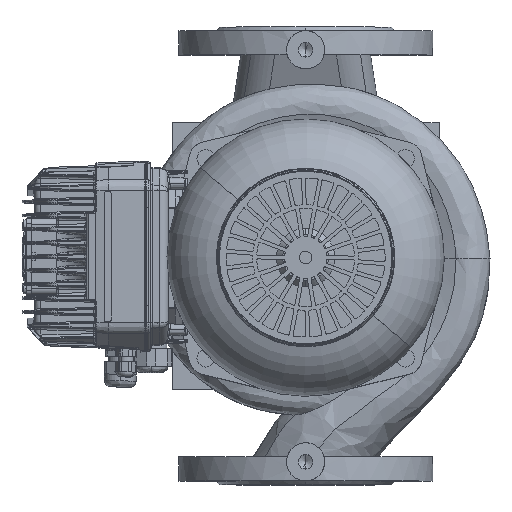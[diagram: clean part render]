
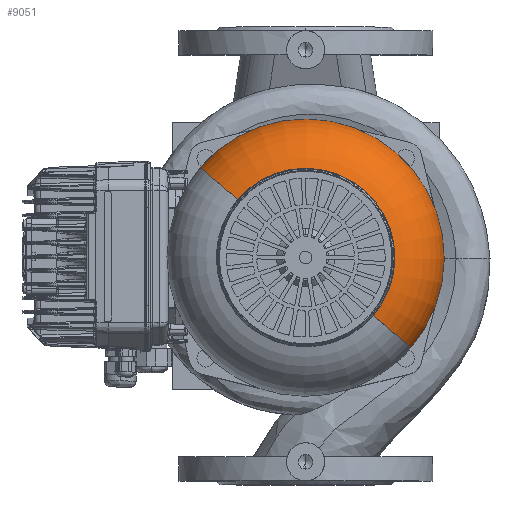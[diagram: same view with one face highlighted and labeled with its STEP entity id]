
A CAD part, top view. The second image highlights one B-rep face of the part: STEP entity #9051.
In plain terms, the highlighted toroidal (fillet/blend) face has major radius 59 mm and minor radius 50 mm.
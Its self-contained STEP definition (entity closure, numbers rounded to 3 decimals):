
#9051=ADVANCED_FACE('NONE',(#21703),#21704,.T.);
#21703=FACE_OUTER_BOUND('',#42049,.T.);
#21704=TOROIDAL_SURFACE('',#42050,59.,50.);
#42049=EDGE_LOOP('',(#115650,#115651,#115652,#115653));
#42050=AXIS2_PLACEMENT_3D('',#115654,#115655,#115656);
#115650=ORIENTED_EDGE('',*,*,#153961,.T.);
#115651=ORIENTED_EDGE('',*,*,#154259,.T.);
#115652=ORIENTED_EDGE('',*,*,#153962,.T.);
#115653=ORIENTED_EDGE('',*,*,#154474,.T.);
#115654=CARTESIAN_POINT('',(-19.253,123.073,382.636));
#115655=DIRECTION('',(0.,0.,1.));
#115656=DIRECTION('',(-0.76,0.65,0.));
#153961=EDGE_CURVE('',#176570,#176578,#176579,.T.);
#153962=EDGE_CURVE('',#176580,#176574,#176581,.T.);
#154259=EDGE_CURVE('NONE',#176578,#176580,#177102,.T.);
#154474=EDGE_CURVE('NONE',#176574,#176570,#177418,.T.);
#176570=VERTEX_POINT('',#212335);
#176574=VERTEX_POINT('NONE',#212340);
#176578=VERTEX_POINT('NONE',#212345);
#176579=CIRCLE('',#212346,50.);
#176580=VERTEX_POINT('',#212347);
#176581=CIRCLE('',#212348,50.);
#177102=CIRCLE('',#213174,70.229);
#177418=CIRCLE('',#213637,109.0);
#212335=CARTESIAN_POINT('',(-102.086,193.923,382.636));
#212340=CARTESIAN_POINT('',(63.58,52.224,382.636));
#212345=CARTESIAN_POINT('',(-72.623,168.722,431.358));
#212346=AXIS2_PLACEMENT_3D('',#297232,#297233,#297234);
#212347=CARTESIAN_POINT('',(34.117,77.425,431.358));
#212348=AXIS2_PLACEMENT_3D('',#297235,#297236,#297237);
#213174=AXIS2_PLACEMENT_3D('',#297699,#297700,#297701);
#213637=AXIS2_PLACEMENT_3D('',#298074,#298075,#298076);
#297232=CARTESIAN_POINT('',(-64.09,161.423,382.636));
#297233=DIRECTION('',(0.65,0.76,0.));
#297234=DIRECTION('',(-0.76,0.65,0.));
#297235=CARTESIAN_POINT('',(25.583,84.724,382.636));
#297236=DIRECTION('',(0.65,0.76,0.));
#297237=DIRECTION('',(0.76,-0.65,0.));
#297699=CARTESIAN_POINT('',(-19.253,123.073,431.358));
#297700=DIRECTION('',(0.,0.,-1.0));
#297701=DIRECTION('',(0.76,-0.65,0.));
#298074=CARTESIAN_POINT('',(-19.253,123.073,382.636));
#298075=DIRECTION('',(0.,0.,1.0));
#298076=DIRECTION('',(-0.76,0.65,0.));
